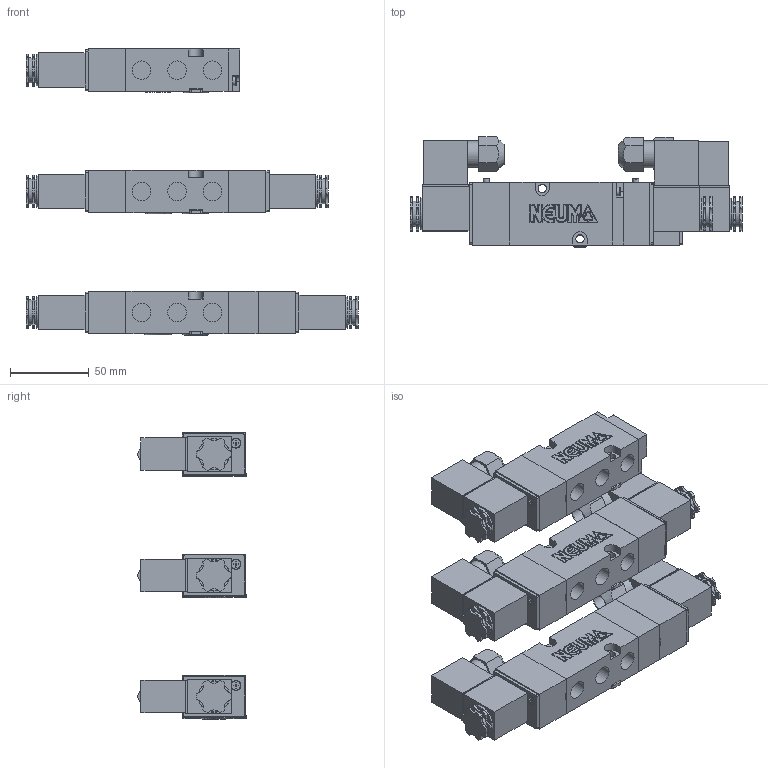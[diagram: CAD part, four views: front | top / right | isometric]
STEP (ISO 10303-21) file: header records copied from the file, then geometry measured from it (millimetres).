
FILE_DESCRIPTION (( 'STEP AP214' ), '1' );
FILE_NAME ('NVA-NMR-0-D2.STEP', '2016-08-09T09:34:54', ( 'Casper' ), ( '' ), 'SwSTEP 2.0', 'SolidWorks 2015', '' );
FILE_SCHEMA (( 'AUTOMOTIVE_DESIGN' ));
Length unit declared in the file: millimetre
Products named in the file (17): 十字圓頭螺絲(M3x0.5x6); NVA-7500-K01; NV-5500-N01_NV5500手動操作器; 2分-M8塑膠螺帽; 2分插頭型線圈(IP67); 十字皿頭螺絲(M3x0.5x30); NVA-7500-G01; 可動鐵管件組(2分); NVA-7500-J02; NVA-NMR1-C02_NVANMR1左式本體(04); NVA-NMR-0-D2; NVA-NMR-3-D2; NVA-7500-D01_NVA7500中座; NVA-NMR-2-D2; NVA-NMR-1-D2_5-2; 3分檔板墊片(41x17x2); O環(12.37x17.61x2.62)
Assembly tree (58 placements, depth 3):
  NVA-NMR-0-D2
    NVA-NMR-1-D2_5-2
      NVA-NMR1-C02_NVANMR1左式本體(04)
      NVA-7500-J02
      可動鐵管件組(2分)
      NVA-7500-G01
      十字皿頭螺絲(M3x0.5x30)  x2
      2分插頭型線圈(IP67)
      2分-M8塑膠螺帽
      NV-5500-N01_NV5500手動操作器
      NVA-7500-K01
      十字圓頭螺絲(M3x0.5x6)  x2
      O環(12.37x17.61x2.62)
      3分檔板墊片(41x17x2)
    NVA-NMR-2-D2
      NVA-NMR1-C02_NVANMR1左式本體(04)
      NVA-7500-J02  x2
      可動鐵管件組(2分)  x2
      NVA-7500-G01  x2
      十字皿頭螺絲(M3x0.5x30)  x5
      2分插頭型線圈(IP67)  x2
      2分-M8塑膠螺帽  x2
      NV-5500-N01_NV5500手動操作器  x2
      3分檔板墊片(41x17x2)
      O環(12.37x17.61x2.62)
    NVA-NMR-3-D2
      NVA-NMR1-C02_NVANMR1左式本體(04)
      NVA-7500-J02  x2
      可動鐵管件組(2分)  x2
      NVA-7500-G01  x2
      十字皿頭螺絲(M3x0.5x30)  x5
      2分插頭型線圈(IP67)  x2
      2分-M8塑膠螺帽  x2
      NV-5500-N01_NV5500手動操作器  x2
      NVA-7500-D01_NVA7500中座
      3分檔板墊片(41x17x2)
      O環(12.37x17.61x2.62)
Bounding box: 211 x 69.77 x 181.8 mm (x, y, z)
Volume: 555566.1 mm3; surface area: 193343.1 mm2
Topology: 75 solids, 75 shells, 2662 faces, 6873 edges, 4542 vertices
Faces by surface type: plane 1445, cylinder 647, bspline 414, cone 121, torus 35
Full cylindrical faces by diameter (mm): 1.7 x5, 2 x10, 2.459 x12, 2.5 x12, 3 x14, 3.4 x22, 3.5 x2, 4 x10, 5.3 x21, 5.5 x8, 6 x12, 6.4 x10, 6.9 x5, 7 x15, 8 x10, 8.9 x5, 9 x5, 10 x10, 10.44 x5, 10.5 x5, 11.8 x9, 11.94 x10, 12 x5, 14 x5, 15 x5, 16 x20, 17 x8, 20 x10
Entity records: 23146 total; most frequent: CARTESIAN_POINT 6079, ORIENTED_EDGE 3400, DIRECTION 2765, EDGE_CURVE 1700, VERTEX_POINT 1179, AXIS2_PLACEMENT_3D 935, VECTOR 895, LINE 895
